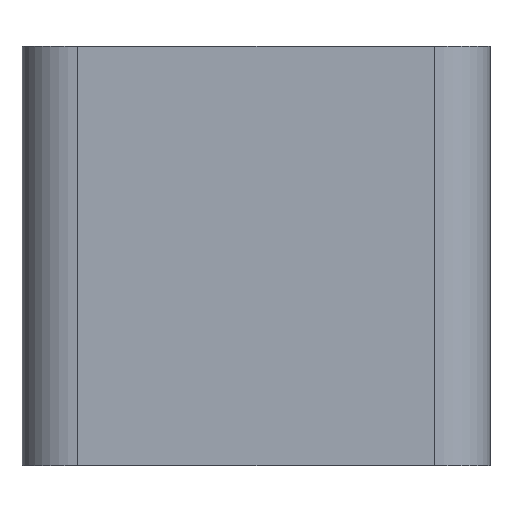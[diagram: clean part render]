
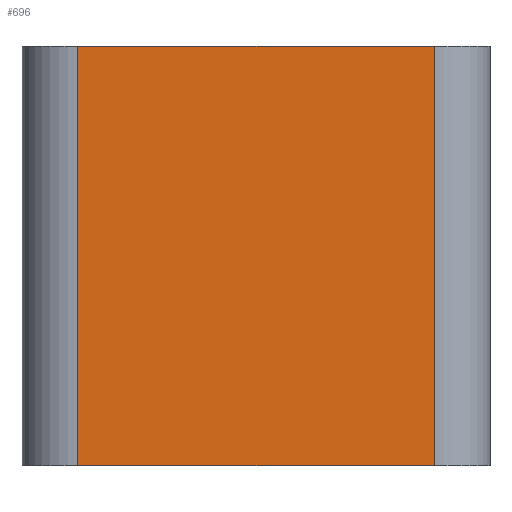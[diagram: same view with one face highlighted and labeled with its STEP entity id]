
A CAD part, left-side view. The second image highlights one B-rep face of the part: STEP entity #696.
In plain terms, the highlighted planar face has unit normal (-1, 0, 0).
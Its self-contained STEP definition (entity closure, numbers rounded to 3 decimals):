
#242=ORIENTED_EDGE('',*,*,#330,.T.);
#243=ORIENTED_EDGE('',*,*,#384,.T.);
#244=ORIENTED_EDGE('',*,*,#301,.F.);
#245=ORIENTED_EDGE('',*,*,#385,.T.);
#301=EDGE_CURVE('',#403,#404,#461,.T.);
#330=EDGE_CURVE('',#433,#432,#472,.T.);
#384=EDGE_CURVE('',#432,#404,#506,.T.);
#385=EDGE_CURVE('',#403,#433,#507,.F.);
#403=VERTEX_POINT('',#1064);
#404=VERTEX_POINT('',#1066);
#432=VERTEX_POINT('',#1206);
#433=VERTEX_POINT('',#1208);
#461=LINE('',#1065,#515);
#472=LINE('',#1207,#526);
#506=LINE('',#2060,#560);
#507=LINE('',#2061,#561);
#515=VECTOR('',#767,1000.);
#526=VECTOR('',#798,1000.);
#560=VECTOR('',#856,1000.);
#561=VECTOR('',#857,1000.);
#602=EDGE_LOOP('',(#242,#243,#244,#245));
#648=FACE_BOUND('',#602,.T.);
#668=PLANE('',#745);
#696=ADVANCED_FACE('',(#648),#668,.T.);
#745=AXIS2_PLACEMENT_3D('',#2059,#854,#855);
#767=DIRECTION('',(0.,1.,0.));
#798=DIRECTION('',(0.,1.,0.));
#854=DIRECTION('',(-1.,0.,0.));
#855=DIRECTION('',(0.,-1.,0.));
#856=DIRECTION('',(0.,0.,-1.));
#857=DIRECTION('',(0.,0.,-1.));
#1064=CARTESIAN_POINT('',(-7.,-13.75,0.));
#1065=CARTESIAN_POINT('',(-7.,0.,0.));
#1066=CARTESIAN_POINT('',(-7.,-1.,0.));
#1206=CARTESIAN_POINT('',(-7.,-1.,15.));
#1207=CARTESIAN_POINT('',(-7.,-15.75,15.));
#1208=CARTESIAN_POINT('',(-7.,-13.75,15.));
#2059=CARTESIAN_POINT('',(-7.,0.,15.));
#2060=CARTESIAN_POINT('',(-7.,-1.,15.));
#2061=CARTESIAN_POINT('',(-7.,-13.75,15.));
